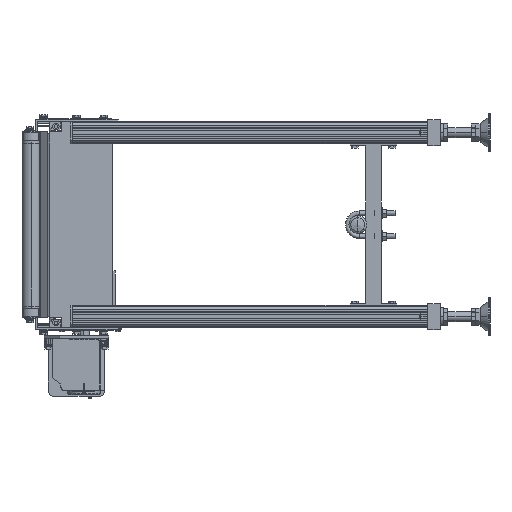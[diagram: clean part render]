
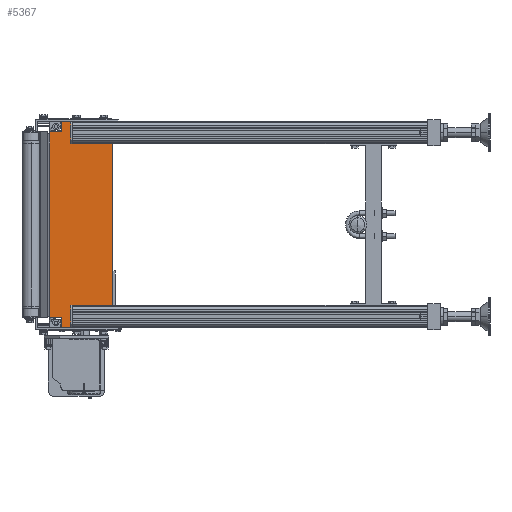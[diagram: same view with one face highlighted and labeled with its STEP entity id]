
A CAD part, left-side view. The second image highlights one B-rep face of the part: STEP entity #5367.
In plain terms, the highlighted planar face has unit normal (-1, 0, 0).
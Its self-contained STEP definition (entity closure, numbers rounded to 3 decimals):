
#5367=ADVANCED_FACE('',(#32552),#32551,.F.);
#32551=PLANE('',#51785);
#32552=FACE_OUTER_BOUND('',#51786,.T.);
#51782=CARTESIAN_POINT('',(298.4,-153.,178.));
#51783=DIRECTION('',(1.,0.,0.));
#51784=DIRECTION('',(0.,0.,-1.));
#51785=AXIS2_PLACEMENT_3D('',#51782,#51783,#51784);
#51786=EDGE_LOOP('',(#67234,#67235,#67236,#67237,#67238,#67239,#67240,#67241,#67242,#67243,#67244,#67245,#67246,#67247));
#67234=ORIENTED_EDGE('',*,*,#76145,.T.);
#67235=ORIENTED_EDGE('',*,*,#76146,.F.);
#67236=ORIENTED_EDGE('',*,*,#76147,.F.);
#67237=ORIENTED_EDGE('',*,*,#76148,.T.);
#67238=ORIENTED_EDGE('',*,*,#76149,.T.);
#67239=ORIENTED_EDGE('',*,*,#76150,.T.);
#67240=ORIENTED_EDGE('',*,*,#76151,.T.);
#67241=ORIENTED_EDGE('',*,*,#76152,.T.);
#67242=ORIENTED_EDGE('',*,*,#76153,.T.);
#67243=ORIENTED_EDGE('',*,*,#76154,.T.);
#67244=ORIENTED_EDGE('',*,*,#76155,.T.);
#67245=ORIENTED_EDGE('',*,*,#76156,.T.);
#67246=ORIENTED_EDGE('',*,*,#76157,.T.);
#67247=ORIENTED_EDGE('',*,*,#76158,.T.);
#76145=EDGE_CURVE('',#121496,#120114,#121497,.T.);
#76146=EDGE_CURVE('',#121503,#120114,#121504,.T.);
#76147=EDGE_CURVE('',#120107,#121503,#121510,.T.);
#76148=EDGE_CURVE('',#120107,#121516,#121517,.T.);
#76149=EDGE_CURVE('',#121516,#121523,#121524,.T.);
#76150=EDGE_CURVE('',#121523,#121530,#121531,.T.);
#76151=EDGE_CURVE('',#121530,#121537,#121538,.T.);
#76152=EDGE_CURVE('',#121537,#121544,#121545,.T.);
#76153=EDGE_CURVE('',#121544,#121551,#121552,.T.);
#76154=EDGE_CURVE('',#121551,#120135,#121558,.T.);
#76155=EDGE_CURVE('',#120135,#121564,#121565,.T.);
#76156=EDGE_CURVE('',#121564,#120127,#121571,.T.);
#76157=EDGE_CURVE('',#120127,#121577,#121578,.T.);
#76158=EDGE_CURVE('',#121577,#121496,#121584,.T.);
#120107=VERTEX_POINT('',#153502);
#120114=VERTEX_POINT('',#153507);
#120127=VERTEX_POINT('',#153515);
#120135=VERTEX_POINT('',#153521);
#121496=VERTEX_POINT('',#154304);
#121497=LINE('',#154305,#154306);
#121503=VERTEX_POINT('',#154308);
#121504=CIRCLE('',#154312,8.904);
#121510=CIRCLE('',#154316,8.904);
#121516=VERTEX_POINT('',#154317);
#121517=LINE('',#154318,#154319);
#121523=VERTEX_POINT('',#154321);
#121524=LINE('',#154322,#154323);
#121530=VERTEX_POINT('',#154325);
#121531=LINE('',#154326,#154327);
#121537=VERTEX_POINT('',#154329);
#121538=LINE('',#154330,#154331);
#121544=VERTEX_POINT('',#154333);
#121545=LINE('',#154334,#154335);
#121551=VERTEX_POINT('',#154337);
#121552=LINE('',#154338,#154339);
#121558=LINE('',#154341,#154342);
#121564=VERTEX_POINT('',#154344);
#121565=CIRCLE('',#154348,8.904);
#121571=CIRCLE('',#154352,8.904);
#121577=VERTEX_POINT('',#154353);
#121578=LINE('',#154354,#154355);
#121584=LINE('',#154357,#154358);
#153502=CARTESIAN_POINT('',(298.4,-109.998,168.));
#153507=CARTESIAN_POINT('',(298.4,-124.002,168.));
#153515=CARTESIAN_POINT('',(298.4,-124.002,-168.));
#153521=CARTESIAN_POINT('',(298.4,-109.998,-168.));
#154304=CARTESIAN_POINT('',(298.4,-143.,168.));
#154305=CARTESIAN_POINT('',(298.4,-143.,168.));
#154306=VECTOR('',#154307,18.998);
#154307=DIRECTION('',(0.,1.,0.));
#154308=CARTESIAN_POINT('',(298.4,-117.,153.596));
#154309=CARTESIAN_POINT('',(298.4,-117.,162.5));
#154310=DIRECTION('',(-1.,0.,0.));
#154311=DIRECTION('',(0.,0.786,0.618));
#154312=AXIS2_PLACEMENT_3D('',#154309,#154310,#154311);
#154313=CARTESIAN_POINT('',(298.4,-117.,162.5));
#154314=DIRECTION('',(-1.,0.,0.));
#154315=DIRECTION('',(0.,0.786,0.618));
#154316=AXIS2_PLACEMENT_3D('',#154313,#154314,#154315);
#154317=CARTESIAN_POINT('',(298.4,-61.,168.));
#154318=CARTESIAN_POINT('',(298.4,-109.998,168.));
#154319=VECTOR('',#154320,48.998);
#154320=DIRECTION('',(0.,1.,0.));
#154321=CARTESIAN_POINT('',(298.4,-61.,149.));
#154322=CARTESIAN_POINT('',(298.4,-61.,168.));
#154323=VECTOR('',#154324,19.);
#154324=DIRECTION('',(0.,0.,-1.));
#154325=CARTESIAN_POINT('',(298.4,-42.,149.));
#154326=CARTESIAN_POINT('',(298.4,-61.,149.));
#154327=VECTOR('',#154328,19.);
#154328=DIRECTION('',(0.,1.,0.));
#154329=CARTESIAN_POINT('',(298.4,-42.,-149.));
#154330=CARTESIAN_POINT('',(298.4,-42.,149.));
#154331=VECTOR('',#154332,298.);
#154332=DIRECTION('',(0.,0.,-1.));
#154333=CARTESIAN_POINT('',(298.4,-61.,-149.));
#154334=CARTESIAN_POINT('',(298.4,-42.,-149.));
#154335=VECTOR('',#154336,19.);
#154336=DIRECTION('',(0.,-1.,0.));
#154337=CARTESIAN_POINT('',(298.4,-61.,-168.));
#154338=CARTESIAN_POINT('',(298.4,-61.,-149.));
#154339=VECTOR('',#154340,19.);
#154340=DIRECTION('',(0.,0.,-1.));
#154341=CARTESIAN_POINT('',(298.4,-61.,-168.));
#154342=VECTOR('',#154343,48.998);
#154343=DIRECTION('',(0.,-1.,0.));
#154344=CARTESIAN_POINT('',(298.4,-117.,-153.596));
#154345=CARTESIAN_POINT('',(298.4,-117.,-162.5));
#154346=DIRECTION('',(1.,0.,0.));
#154347=DIRECTION('',(0.,0.786,-0.618));
#154348=AXIS2_PLACEMENT_3D('',#154345,#154346,#154347);
#154349=CARTESIAN_POINT('',(298.4,-117.,-162.5));
#154350=DIRECTION('',(1.,0.,0.));
#154351=DIRECTION('',(0.,0.786,-0.618));
#154352=AXIS2_PLACEMENT_3D('',#154349,#154350,#154351);
#154353=CARTESIAN_POINT('',(298.4,-143.,-168.));
#154354=CARTESIAN_POINT('',(298.4,-124.002,-168.));
#154355=VECTOR('',#154356,18.998);
#154356=DIRECTION('',(0.,-1.,0.));
#154357=CARTESIAN_POINT('',(298.4,-143.,-168.));
#154358=VECTOR('',#154359,336.);
#154359=DIRECTION('',(0.,0.,1.));
